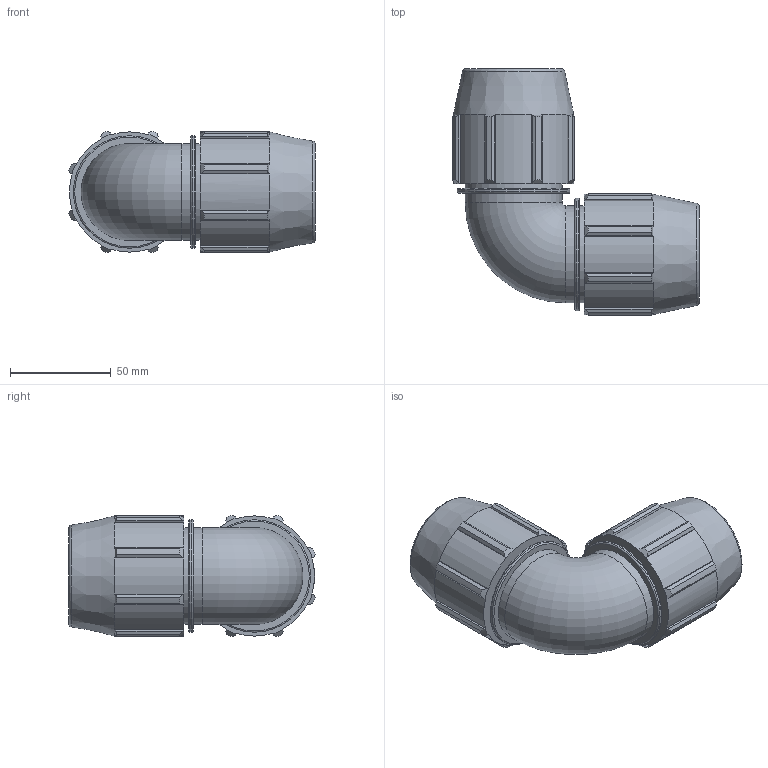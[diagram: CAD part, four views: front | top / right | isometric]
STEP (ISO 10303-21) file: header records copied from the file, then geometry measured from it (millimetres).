
FILE_DESCRIPTION(/* description */ ('PLASSON 90° ELBOW 1'''' - 1'''''),/* implementation_level */ '2;1');
FILE_NAME(/* name */ 'C:\Dropbox\KIMPROJECTS-Inventor 2019\99-16-3568-Processing Inch\ASTM Compression 2021\0705M0\0705M0010.ipt.stp',/* time_stamp */ '2021-08-26T12:31:53+03:00',/* author */ ('KIM'),/* organization */ (''),/* preprocessor_version */ 'ST-DEVELOPER v17.2',/* originating_system */ 'Autodesk Inventor 2019',/* authorisation */ '');
FILE_SCHEMA (('AUTOMOTIVE_DESIGN { 1 0 10303 214 3 1 1 }'));
Length unit declared in the file: inch
Products named in the file (1): 0705M0010
Bounding box: 122.06 x 122.06 x 60.23 mm (x, y, z)
Volume: 267585.1 mm3; surface area: 56382.8 mm2
Topology: 1 solids, 1 shells, 162 faces, 477 edges, 327 vertices
Faces by surface type: plane 76, cylinder 40, cone 38, torus 8
Full cylindrical faces by diameter (mm): 33.3 x2, 48.006 x4, 55.687 x2
Entity records: 5653 total; most frequent: CARTESIAN_POINT 1095, ORIENTED_EDGE 954, DIRECTION 914, EDGE_CURVE 477, AXIS2_PLACEMENT_3D 338, VERTEX_POINT 327, LINE 238, VECTOR 238
